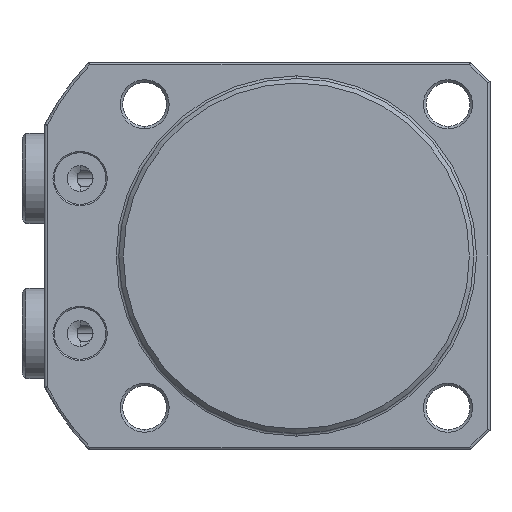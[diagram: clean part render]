
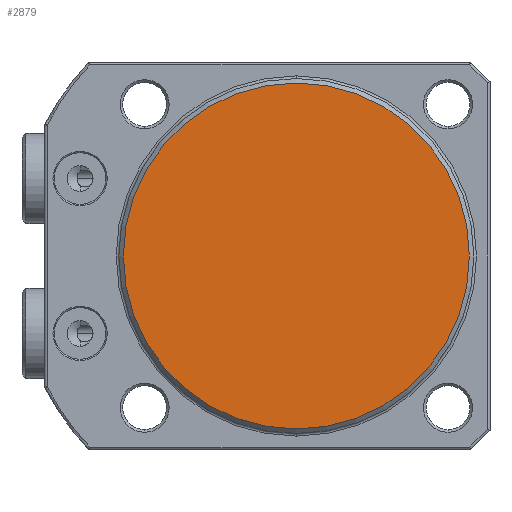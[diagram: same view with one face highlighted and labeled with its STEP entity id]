
A CAD part, front view. The second image highlights one B-rep face of the part: STEP entity #2879.
In plain terms, the highlighted planar face has unit normal (0, -1, 0) as drawn and (-1, 0, 0) by its records, which use the part's own axes.
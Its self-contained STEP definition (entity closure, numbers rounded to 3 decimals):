
#1666=PLANE('',#7762);
#2879=ADVANCED_FACE('',(#3255),#1666,.F.);
#3255=FACE_OUTER_BOUND('',#3643,.T.);
#3643=EDGE_LOOP('',(#5244));
#5244=ORIENTED_EDGE('',*,*,#6658,.T.);
#5837=VERTEX_POINT('',#12615);
#6658=EDGE_CURVE('',#5837,#5837,#7062,.T.);
#7062=CIRCLE('',#7761,26.8);
#7761=AXIS2_PLACEMENT_3D('',#12614,#9492,#9493);
#7762=AXIS2_PLACEMENT_3D('',#12616,#9494,#9495);
#9492=DIRECTION('',(-1.,0.,0.));
#9493=DIRECTION('',(0.,0.,-1.));
#9494=DIRECTION('',(1.,0.,0.));
#9495=DIRECTION('',(0.,0.,1.));
#12614=CARTESIAN_POINT('',(0.,0.,0.));
#12615=CARTESIAN_POINT('',(0.,0.,-26.8));
#12616=CARTESIAN_POINT('',(0.,0.,0.));
